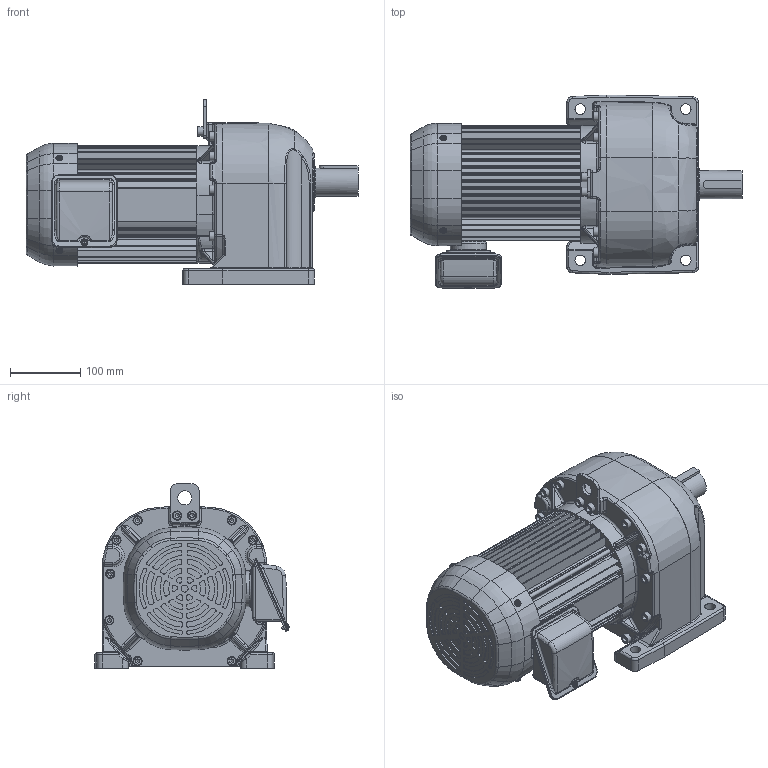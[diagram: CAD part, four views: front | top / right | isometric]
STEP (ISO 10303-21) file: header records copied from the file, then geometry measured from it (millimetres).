
FILE_DESCRIPTION( ( 'Unknown' ), '1' );
FILE_NAME( 'X:/gear/gm/3D-WEB/IE3/DP/ﾊﾟｰﾂ/完成品/dp_15_40-50.stp', 'Unknown', ( 'Unknown' ), ( 'Unknown' ), 'PSStep 14.0', 'Unknown', ' ' );
FILE_SCHEMA( ( 'AUTOMOTIVE_DESIGN { 1 0 10303 214 1 1 1 1 }' ) );
Length unit declared in the file: millimetre
Products named in the file (2): P164379_ｷﾞﾔｹｰｽ(J40)
Bounding box: 472 x 275.85 x 262 mm (x, y, z)
Volume: 11989461.6 mm3; surface area: 817121.1 mm2
Topology: 2 solids, 31 shells, 1828 faces, 4478 edges, 2811 vertices
Faces by surface type: cylinder 764, plane 667, bspline 155, torus 145, cone 69, sphere 28
Full cylindrical faces by diameter (mm): 2 x4, 3.8 x6, 4.2 x8, 4.8 x1, 4.917 x4, 5.5 x4, 5.6 x1, 5.8 x4, 6 x12, 6.8 x13, 7 x5, 8 x12, 8.2 x1, 9 x10, 10 x18, 13 x12, 13.5 x2, 15 x4, 20 x1, 23 x1, 25 x3, 28.6 x1, 40 x1, 45 x1, 45.1 x1, 45.5 x1, 48 x2, 50 x2, 51.2 x1, 58 x1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
Entity records: 84193 total; most frequent: CARTESIAN_POINT 27789, DIRECTION 9169, ORIENTED_EDGE 8176, EDGE_CURVE 4088, AXIS2_PLACEMENT_3D 3658, VERTEX_POINT 2703, EDGE_LOOP 2206, FACE_OUTER_BOUND 1999
